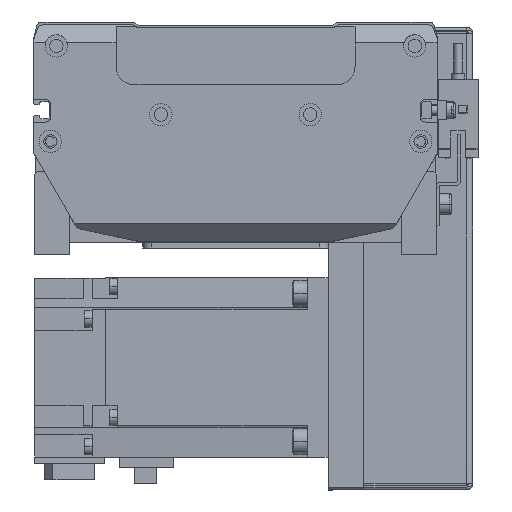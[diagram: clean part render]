
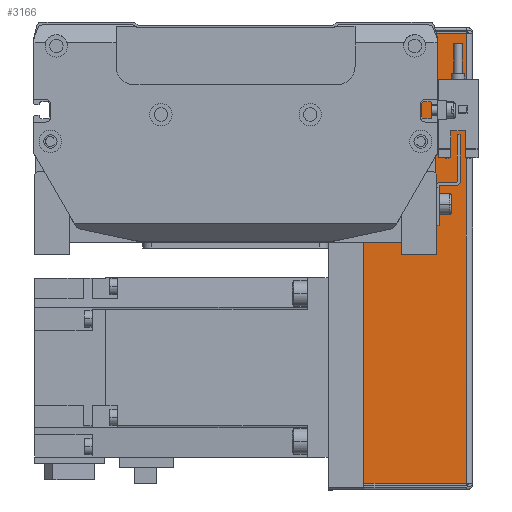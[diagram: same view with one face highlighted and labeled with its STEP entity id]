
A CAD part, front view. The second image highlights one B-rep face of the part: STEP entity #3166.
In plain terms, the highlighted planar face has unit normal (0, -1, 0).
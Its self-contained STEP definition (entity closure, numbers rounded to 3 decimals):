
#1871 = VERTEX_POINT ( 'NONE', #18115 ) ;
#3166 = ADVANCED_FACE ( 'NONE', ( #19549 ), #10278, .F. ) ;
#3183 = EDGE_CURVE ( 'NONE', #13929, #31758, #32029, .T. ) ;
#5758 = VECTOR ( 'NONE', #37370, 1000. ) ;
#6697 = EDGE_CURVE ( 'NONE', #1871, #13929, #21556, .T. ) ;
#10278 = PLANE ( 'NONE',  #38266 ) ;
#11737 = DIRECTION ( 'NONE',  ( 1., 0., 0. ) ) ;
#11871 = CARTESIAN_POINT ( 'NONE',  ( 118., -37., 34.263 ) ) ;
#13493 = EDGE_CURVE ( 'NONE', #37359, #31758, #30027, .T. ) ;
#13929 = VERTEX_POINT ( 'NONE', #34225 ) ;
#13961 = ORIENTED_EDGE ( 'NONE', *, *, #3183, .F. ) ;
#14972 = CARTESIAN_POINT ( 'NONE',  ( -162.166, -37., 0. ) ) ;
#15046 = VECTOR ( 'NONE', #11737, 1000. ) ;
#18115 = CARTESIAN_POINT ( 'NONE',  ( -34.793, -37., 34.263 ) ) ;
#19160 = CARTESIAN_POINT ( 'NONE',  ( 115.793, -37., 0. ) ) ;
#19549 = FACE_OUTER_BOUND ( 'NONE', #28608, .T. ) ;
#19820 = CARTESIAN_POINT ( 'NONE',  ( -162.166, -37., 36.5 ) ) ;
#19962 = DIRECTION ( 'NONE',  ( 0., 0., 1. ) ) ;
#20240 = DIRECTION ( 'NONE',  ( 0., 1., 0. ) ) ;
#20786 = DIRECTION ( 'NONE',  ( 0., 0., -1. ) ) ;
#21556 = LINE ( 'NONE', #11871, #36043 ) ;
#28144 = ORIENTED_EDGE ( 'NONE', *, *, #6697, .F. ) ;
#28608 = EDGE_LOOP ( 'NONE', ( #13961, #28144, #30607, #29970 ) ) ;
#29970 = ORIENTED_EDGE ( 'NONE', *, *, #13493, .T. ) ;
#30027 = LINE ( 'NONE', #14972, #15046 ) ;
#30607 = ORIENTED_EDGE ( 'NONE', *, *, #30979, .T. ) ;
#30870 = DIRECTION ( 'NONE',  ( 1., 0., 0. ) ) ;
#30979 = EDGE_CURVE ( 'NONE', #1871, #37359, #40307, .T. ) ;
#31758 = VERTEX_POINT ( 'NONE', #19160 ) ;
#32029 = LINE ( 'NONE', #36025, #35547 ) ;
#34225 = CARTESIAN_POINT ( 'NONE',  ( 115.793, -37., 34.263 ) ) ;
#35547 = VECTOR ( 'NONE', #20786, 1000. ) ;
#36025 = CARTESIAN_POINT ( 'NONE',  ( 115.793, -37., 35. ) ) ;
#36043 = VECTOR ( 'NONE', #30870, 1000. ) ;
#37234 = CARTESIAN_POINT ( 'NONE',  ( -34.793, -37., 36.5 ) ) ;
#37359 = VERTEX_POINT ( 'NONE', #40070 ) ;
#37370 = DIRECTION ( 'NONE',  ( 0., 0., -1. ) ) ;
#38266 = AXIS2_PLACEMENT_3D ( 'NONE', #19820, #20240, #19962 ) ;
#40070 = CARTESIAN_POINT ( 'NONE',  ( -34.793, -37., 0. ) ) ;
#40307 = LINE ( 'NONE', #37234, #5758 ) ;
